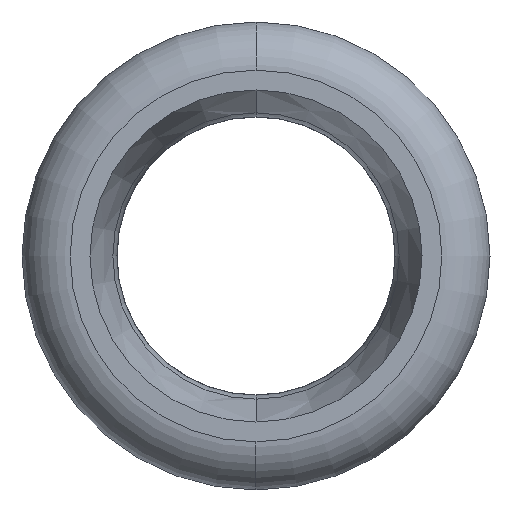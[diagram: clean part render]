
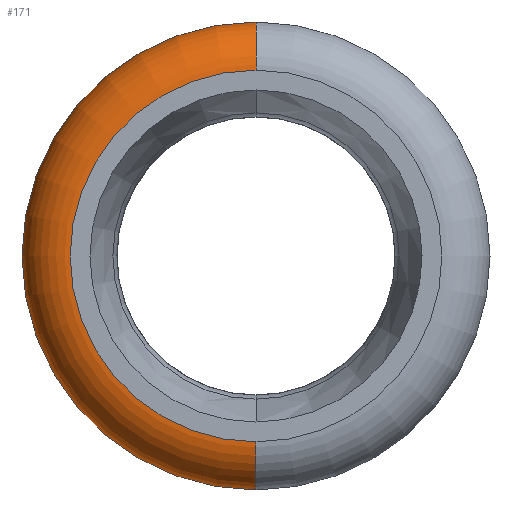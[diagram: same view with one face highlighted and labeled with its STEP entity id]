
A CAD part, left-side view. The second image highlights one B-rep face of the part: STEP entity #171.
In plain terms, the highlighted toroidal (fillet/blend) face has major radius 10.6 mm and minor radius 3 mm.
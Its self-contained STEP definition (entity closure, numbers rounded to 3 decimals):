
#171=ADVANCED_FACE('',(#388),#389,.T.);
#388=FACE_OUTER_BOUND('',#668,.T.);
#389=TOROIDAL_SURFACE('',#669,10.6,3.);
#668=EDGE_LOOP('',(#1097,#1098,#1099,#1100));
#669=AXIS2_PLACEMENT_3D('',#1101,#1102,#1103);
#1097=ORIENTED_EDGE('',*,*,#1571,.T.);
#1098=ORIENTED_EDGE('',*,*,#1655,.F.);
#1099=ORIENTED_EDGE('',*,*,#1656,.F.);
#1100=ORIENTED_EDGE('',*,*,#1657,.F.);
#1101=CARTESIAN_POINT('',(8.,0.0,0.));
#1102=DIRECTION('',(-1.0,0.0,0.));
#1103=DIRECTION('',(0.,0.0,1.0));
#1571=EDGE_CURVE('',#1812,#1811,#1856,.T.);
#1655=EDGE_CURVE('',#1988,#1811,#1989,.T.);
#1656=EDGE_CURVE('',#1990,#1988,#1991,.T.);
#1657=EDGE_CURVE('',#1812,#1990,#1992,.T.);
#1811=VERTEX_POINT('',#2168);
#1812=VERTEX_POINT('',#2169);
#1856=CIRCLE('',#2213,13.6);
#1988=VERTEX_POINT('',#2363);
#1989=CIRCLE('',#2364,3.);
#1990=VERTEX_POINT('',#2365);
#1991=CIRCLE('',#2366,10.6);
#1992=CIRCLE('',#2367,3.);
#2168=CARTESIAN_POINT('',(8.,0.,-13.6));
#2169=CARTESIAN_POINT('',(8.,0.,13.6));
#2213=AXIS2_PLACEMENT_3D('',#2630,#2631,#2632);
#2363=CARTESIAN_POINT('',(5.,0.,-10.6));
#2364=AXIS2_PLACEMENT_3D('',#2786,#2787,#2788);
#2365=CARTESIAN_POINT('',(5.,0.,10.6));
#2366=AXIS2_PLACEMENT_3D('',#2789,#2790,#2791);
#2367=AXIS2_PLACEMENT_3D('',#2792,#2793,#2794);
#2630=CARTESIAN_POINT('',(8.,0.0,0.));
#2631=DIRECTION('',(-1.0,0.0,0.));
#2632=DIRECTION('',(0.,0.0,1.0));
#2786=CARTESIAN_POINT('',(8.,0.,-10.6));
#2787=DIRECTION('',(0.,-1.0,0.));
#2788=DIRECTION('',(0.,0.,-1.0));
#2789=CARTESIAN_POINT('',(5.,0.0,0.));
#2790=DIRECTION('',(-1.0,0.0,0.));
#2791=DIRECTION('',(0.,0.0,-1.0));
#2792=CARTESIAN_POINT('',(8.,0.,10.6));
#2793=DIRECTION('',(0.,-1.0,0.));
#2794=DIRECTION('',(0.,0.,1.0));
